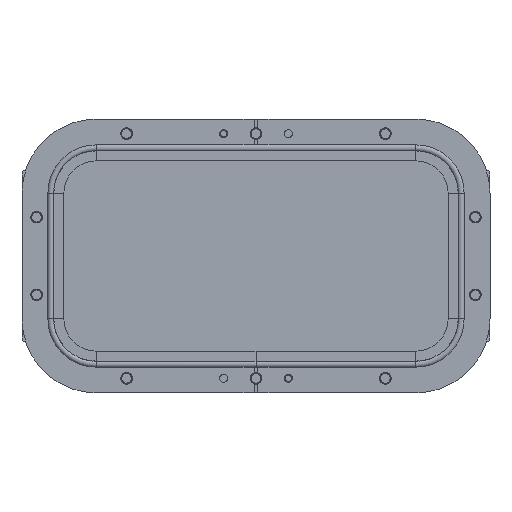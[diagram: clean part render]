
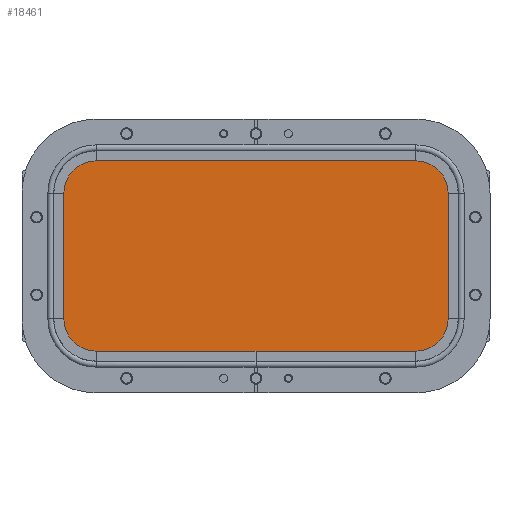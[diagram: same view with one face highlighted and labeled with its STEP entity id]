
A CAD part, front view. The second image highlights one B-rep face of the part: STEP entity #18461.
In plain terms, the highlighted planar face has unit normal (0, -1, 0).
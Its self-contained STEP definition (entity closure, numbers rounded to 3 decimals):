
#66 = EDGE_LOOP ( 'NONE', ( #18741, #13050, #8368, #17902, #358, #13309, #5781, #14028 ) ) ;
#196 = CARTESIAN_POINT ( 'NONE',  ( -160.3, 0., -48.5 ) ) ;
#358 = ORIENTED_EDGE ( 'NONE', *, *, #10292, .T. ) ;
#518 = VERTEX_POINT ( 'NONE', #19453 ) ;
#843 = DIRECTION ( 'NONE',  ( 0., 0., 1. ) ) ;
#1900 = EDGE_CURVE ( 'NONE', #5792, #27837, #2334, .T. ) ;
#1970 = LINE ( 'NONE', #23291, #5832 ) ;
#2251 = CARTESIAN_POINT ( 'NONE',  ( -123.5, 0., -85.3 ) ) ;
#2334 = CIRCLE ( 'NONE', #15764, 36.8 ) ;
#2402 = EDGE_CURVE ( 'NONE', #21635, #5780, #8903, .T. ) ;
#2792 = VECTOR ( 'NONE', #9859, 1000. ) ;
#3701 = DIRECTION ( 'NONE',  ( 0., -1., 0. ) ) ;
#3845 = VECTOR ( 'NONE', #26056, 1000. ) ;
#4390 = CARTESIAN_POINT ( 'NONE',  ( -123.5, 0., 85.3 ) ) ;
#5256 = DIRECTION ( 'NONE',  ( 0., -1., 0. ) ) ;
#5267 = VERTEX_POINT ( 'NONE', #22224 ) ;
#5780 = VERTEX_POINT ( 'NONE', #196 ) ;
#5781 = ORIENTED_EDGE ( 'NONE', *, *, #8473, .T. ) ;
#5792 = VERTEX_POINT ( 'NONE', #22000 ) ;
#5832 = VECTOR ( 'NONE', #18803, 1000. ) ;
#6933 = DIRECTION ( 'NONE',  ( 0., -1., 0. ) ) ;
#7482 = DIRECTION ( 'NONE',  ( 0., 0., 1. ) ) ;
#7772 = VERTEX_POINT ( 'NONE', #2251 ) ;
#8368 = ORIENTED_EDGE ( 'NONE', *, *, #1900, .T. ) ;
#8473 = EDGE_CURVE ( 'NONE', #18416, #21635, #9322, .T. ) ;
#8604 = CARTESIAN_POINT ( 'NONE',  ( 160.3, 0., 48.5 ) ) ;
#8903 = LINE ( 'NONE', #23636, #19328 ) ;
#9066 = AXIS2_PLACEMENT_3D ( 'NONE', #11621, #15917, #13679 ) ;
#9322 = CIRCLE ( 'NONE', #25568, 36.8 ) ;
#9484 = CARTESIAN_POINT ( 'NONE',  ( -123.5, 0., -85.3 ) ) ;
#9859 = DIRECTION ( 'NONE',  ( 1., 0., 0. ) ) ;
#10049 = DIRECTION ( 'NONE',  ( 0., -1., 0. ) ) ;
#10288 = DIRECTION ( 'NONE',  ( 0., 0., -1. ) ) ;
#10292 = EDGE_CURVE ( 'NONE', #5267, #518, #18315, .T. ) ;
#10742 = LINE ( 'NONE', #9484, #2792 ) ;
#11228 = CARTESIAN_POINT ( 'NONE',  ( 123.5, 0., 48.5 ) ) ;
#11490 = EDGE_CURVE ( 'NONE', #5780, #7772, #12168, .T. ) ;
#11527 = DIRECTION ( 'NONE',  ( 0., 0., 1. ) ) ;
#11621 = CARTESIAN_POINT ( 'NONE',  ( -123.5, 0., 48.5 ) ) ;
#12168 = CIRCLE ( 'NONE', #14542, 36.8 ) ;
#12544 = EDGE_CURVE ( 'NONE', #7772, #5792, #10742, .T. ) ;
#12675 = DIRECTION ( 'NONE',  ( 0., 0., 1. ) ) ;
#12920 = EDGE_CURVE ( 'NONE', #27837, #5267, #15950, .T. ) ;
#13050 = ORIENTED_EDGE ( 'NONE', *, *, #12544, .T. ) ;
#13309 = ORIENTED_EDGE ( 'NONE', *, *, #14241, .T. ) ;
#13679 = DIRECTION ( 'NONE',  ( 0., 0., 1. ) ) ;
#14028 = ORIENTED_EDGE ( 'NONE', *, *, #2402, .T. ) ;
#14241 = EDGE_CURVE ( 'NONE', #518, #18416, #1970, .T. ) ;
#14542 = AXIS2_PLACEMENT_3D ( 'NONE', #16294, #5256, #7482 ) ;
#15764 = AXIS2_PLACEMENT_3D ( 'NONE', #25969, #3701, #12675 ) ;
#15917 = DIRECTION ( 'NONE',  ( 0., 1., 0. ) ) ;
#15950 = LINE ( 'NONE', #8604, #3845 ) ;
#16294 = CARTESIAN_POINT ( 'NONE',  ( -123.5, 0., -48.5 ) ) ;
#16830 = CARTESIAN_POINT ( 'NONE',  ( -160.3, 0., 48.5 ) ) ;
#17902 = ORIENTED_EDGE ( 'NONE', *, *, #12920, .T. ) ;
#18249 = PLANE ( 'NONE',  #9066 ) ;
#18315 = CIRCLE ( 'NONE', #21419, 36.8 ) ;
#18416 = VERTEX_POINT ( 'NONE', #4390 ) ;
#18461 = ADVANCED_FACE ( 'NONE', ( #19177 ), #18249, .F. ) ;
#18741 = ORIENTED_EDGE ( 'NONE', *, *, #11490, .T. ) ;
#18803 = DIRECTION ( 'NONE',  ( -1., 0., 0. ) ) ;
#19177 = FACE_OUTER_BOUND ( 'NONE', #66, .T. ) ;
#19328 = VECTOR ( 'NONE', #10288, 1000. ) ;
#19453 = CARTESIAN_POINT ( 'NONE',  ( 123.5, 0., 85.3 ) ) ;
#21419 = AXIS2_PLACEMENT_3D ( 'NONE', #11228, #6933, #11527 ) ;
#21635 = VERTEX_POINT ( 'NONE', #16830 ) ;
#22000 = CARTESIAN_POINT ( 'NONE',  ( 123.5, 0., -85.3 ) ) ;
#22224 = CARTESIAN_POINT ( 'NONE',  ( 160.3, 0., 48.5 ) ) ;
#23291 = CARTESIAN_POINT ( 'NONE',  ( -123.5, 0., 85.3 ) ) ;
#23379 = CARTESIAN_POINT ( 'NONE',  ( -123.5, 0., 48.5 ) ) ;
#23636 = CARTESIAN_POINT ( 'NONE',  ( -160.3, 0., 48.5 ) ) ;
#25568 = AXIS2_PLACEMENT_3D ( 'NONE', #23379, #10049, #843 ) ;
#25846 = CARTESIAN_POINT ( 'NONE',  ( 160.3, 0., -48.5 ) ) ;
#25969 = CARTESIAN_POINT ( 'NONE',  ( 123.5, 0., -48.5 ) ) ;
#26056 = DIRECTION ( 'NONE',  ( 0., 0., 1. ) ) ;
#27837 = VERTEX_POINT ( 'NONE', #25846 ) ;
